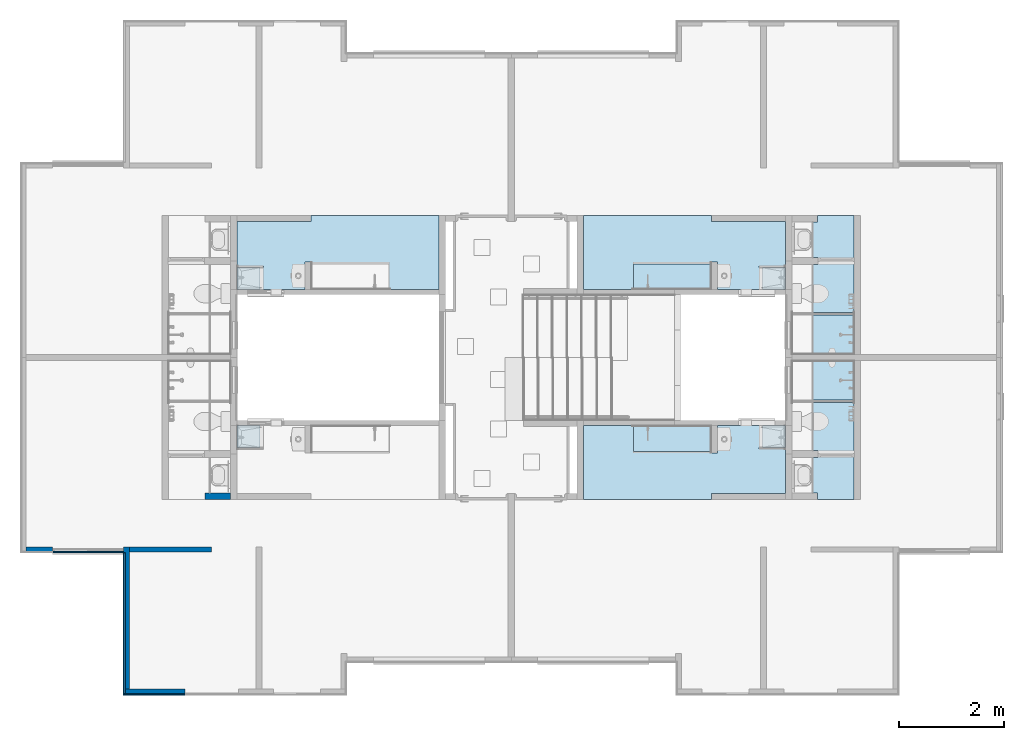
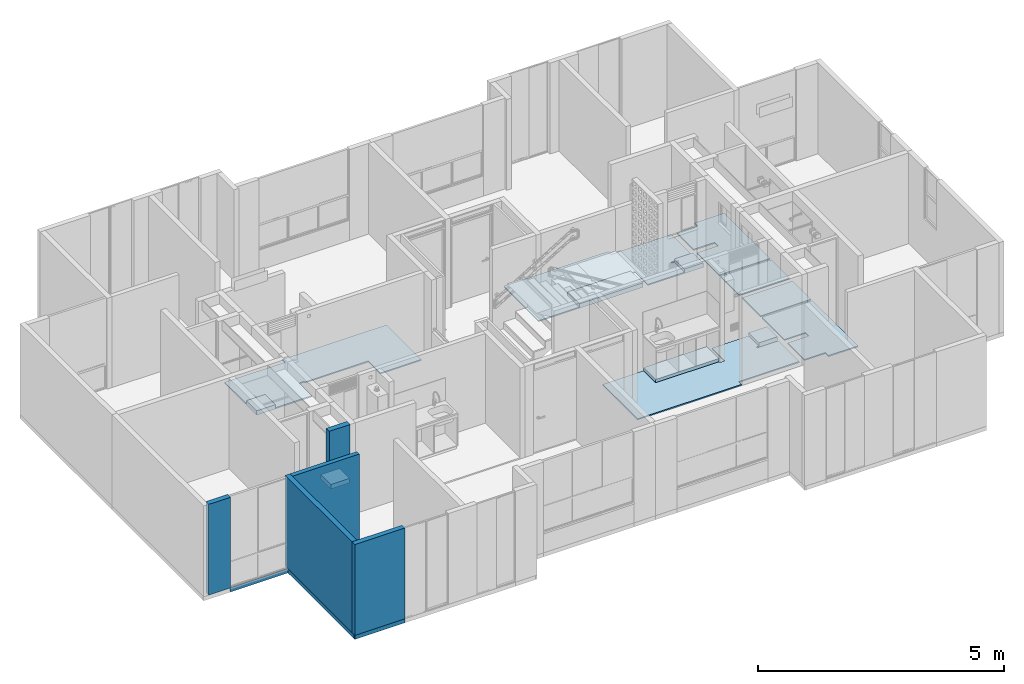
# One storey, part 3 of 48: 11 slabs, 8 walls.
"""IFC4 building model written with IfcOpenShell, lengths in metres."""

from ifc_helpers import new_model, entity, si_unit, converted_unit, derived_unit, direction, frame, origin, place, context, subcontext, project, spatial, indexed_curve, outline, extrude, material, constituent, constituent_set, type_object, element, save


model = new_model("IFC4")

# Units and contexts
model_context = context("Model", 3, precision=1e-05, world=origin(), true_north=direction((6.123031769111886e-17, 1.0)))
body_context = subcontext(model_context, "Body", "Model", "MODEL_VIEW")
ifc_project = project(units=[si_unit("LENGTHUNIT", "METRE"), si_unit("AREAUNIT", "SQUARE_METRE"), si_unit("VOLUMEUNIT", "CUBIC_METRE"), converted_unit("PLANEANGLEUNIT", "DEGREE", entity("IfcRatioMeasure", 0.017453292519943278), si_unit("PLANEANGLEUNIT", "RADIAN"), dimensions=[0, 0, 0, 0, 0, 0, 0]), si_unit("MASSUNIT", "GRAM", prefix="KILO"), derived_unit("MASSDENSITYUNIT", [(si_unit("MASSUNIT", "GRAM", prefix="KILO"), 1), (si_unit("LENGTHUNIT", "METRE"), -3)]), derived_unit("IONCONCENTRATIONUNIT", [(si_unit("MASSUNIT", "GRAM", prefix="KILO"), 1), (si_unit("LENGTHUNIT", "METRE"), -3)]), derived_unit("MOMENTOFINERTIAUNIT", [(si_unit("LENGTHUNIT", "METRE"), 4)]), si_unit("TIMEUNIT", "SECOND"), si_unit("FREQUENCYUNIT", "HERTZ"), si_unit("THERMODYNAMICTEMPERATUREUNIT", "DEGREE_CELSIUS"), derived_unit("THERMALTRANSMITTANCEUNIT", [(si_unit("MASSUNIT", "GRAM", prefix="KILO"), 1), (si_unit("THERMODYNAMICTEMPERATUREUNIT", "KELVIN"), -1), (si_unit("TIMEUNIT", "SECOND"), -3)]), derived_unit("THERMALCONDUCTANCEUNIT", [(si_unit("MASSUNIT", "GRAM", prefix="KILO"), 1), (si_unit("THERMODYNAMICTEMPERATUREUNIT", "KELVIN"), -1), (si_unit("TIMEUNIT", "SECOND"), -3), (si_unit("LENGTHUNIT", "METRE"), 1)]), derived_unit("VOLUMETRICFLOWRATEUNIT", [(si_unit("LENGTHUNIT", "METRE"), 3), (si_unit("TIMEUNIT", "SECOND"), -1)]), derived_unit("MASSFLOWRATEUNIT", [(si_unit("MASSUNIT", "GRAM", prefix="KILO"), 1), (si_unit("TIMEUNIT", "SECOND"), -1)]), derived_unit("ROTATIONALFREQUENCYUNIT", [(si_unit("TIMEUNIT", "SECOND"), -1)]), si_unit("ELECTRICCURRENTUNIT", "AMPERE"), si_unit("ELECTRICVOLTAGEUNIT", "VOLT"), si_unit("POWERUNIT", "WATT"), si_unit("FORCEUNIT", "NEWTON", prefix="KILO"), si_unit("ILLUMINANCEUNIT", "LUX"), si_unit("LUMINOUSFLUXUNIT", "LUMEN"), si_unit("LUMINOUSINTENSITYUNIT", "CANDELA"), derived_unit("USERDEFINED", [(si_unit("MASSUNIT", "GRAM", prefix="KILO"), -1), (si_unit("LENGTHUNIT", "METRE"), -2), (si_unit("TIMEUNIT", "SECOND"), 3), (si_unit("LUMINOUSFLUXUNIT", "LUMEN"), 1)]), derived_unit("USERDEFINED", [(si_unit("MASSUNIT", "GRAM", prefix="KILO"), 1), (si_unit("TIMEUNIT", "SECOND"), -3), (si_unit("LENGTHUNIT", "METRE"), 3), (si_unit("ELECTRICCURRENTUNIT", "AMPERE"), -2)]), derived_unit("SOUNDPOWERUNIT", [(si_unit("MASSUNIT", "GRAM", prefix="KILO"), 1), (si_unit("TIMEUNIT", "SECOND"), -3), (si_unit("LENGTHUNIT", "METRE"), 2)]), derived_unit("SOUNDPRESSUREUNIT", [(si_unit("MASSUNIT", "GRAM", prefix="KILO"), 1), (si_unit("LENGTHUNIT", "METRE"), -1), (si_unit("TIMEUNIT", "SECOND"), -2)]), derived_unit("LINEARVELOCITYUNIT", [(si_unit("LENGTHUNIT", "METRE"), 1), (si_unit("TIMEUNIT", "SECOND"), -1)]), si_unit("PRESSUREUNIT", "PASCAL"), derived_unit("USERDEFINED", [(si_unit("MASSUNIT", "GRAM", prefix="KILO"), 1), (si_unit("LENGTHUNIT", "METRE"), -2), (si_unit("TIMEUNIT", "SECOND"), -2)]), derived_unit("LINEARFORCEUNIT", [(si_unit("MASSUNIT", "GRAM", prefix="KILO"), 1), (si_unit("TIMEUNIT", "SECOND"), -2)]), derived_unit("PLANARFORCEUNIT", [(si_unit("MASSUNIT", "GRAM", prefix="KILO"), 1), (si_unit("LENGTHUNIT", "METRE"), -1), (si_unit("TIMEUNIT", "SECOND"), -2)]), derived_unit("SPECIFICHEATCAPACITYUNIT", [(si_unit("THERMODYNAMICTEMPERATUREUNIT", "KELVIN"), -1), (si_unit("LENGTHUNIT", "METRE"), 2), (si_unit("TIMEUNIT", "SECOND"), -2)]), derived_unit("HEATINGVALUEUNIT", [(si_unit("LENGTHUNIT", "METRE"), 2), (si_unit("TIMEUNIT", "SECOND"), -2)]), derived_unit("VAPORPERMEABILITYUNIT", [(si_unit("LENGTHUNIT", "METRE"), -1), (si_unit("TIMEUNIT", "SECOND"), 1)]), derived_unit("DYNAMICVISCOSITYUNIT", [(si_unit("MASSUNIT", "GRAM", prefix="KILO"), 1), (si_unit("TIMEUNIT", "SECOND"), -1), (si_unit("LENGTHUNIT", "METRE"), -1)]), derived_unit("THERMALEXPANSIONCOEFFICIENTUNIT", [(si_unit("THERMODYNAMICTEMPERATUREUNIT", "KELVIN"), -1)]), derived_unit("MODULUSOFELASTICITYUNIT", [(si_unit("MASSUNIT", "GRAM", prefix="KILO"), 1), (si_unit("LENGTHUNIT", "METRE"), -1), (si_unit("TIMEUNIT", "SECOND"), -2)]), derived_unit("ISOTHERMALMOISTURECAPACITYUNIT", [(si_unit("LENGTHUNIT", "METRE"), 3), (si_unit("MASSUNIT", "GRAM", prefix="KILO"), -1)]), derived_unit("MOISTUREDIFFUSIVITYUNIT", [(si_unit("TIMEUNIT", "SECOND"), -1), (si_unit("LENGTHUNIT", "METRE"), 2)])], contexts=[model_context])

# Site, building, storey
site_placement = place(None, origin())
site = spatial("IfcSite", under=ifc_project, at=site_placement, Name="Default", CompositionType="ELEMENT")
building_placement = place(site_placement, origin())
building = spatial("IfcBuilding", under=site, at=building_placement, CompositionType="ELEMENT")
storey_placement = place(building_placement, frame((0.0, 0.0, 9.40000000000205)))
storey = spatial("IfcBuildingStorey", under=building, at=storey_placement, Name="Nivel 5", CompositionType="ELEMENT", Elevation=9.40000000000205)

# Slabs
ifc_material_1 = material(Name="Ceramica 0.45m x 0.45m gris", Category="Materials")
ifc_constituent_1 = constituent(ifc_material_1, Name="Ceramica 0.45m x 0.45m gris", Category="Materials")
ifc_material_2 = material(Name="Mortero de pega", Category="Materials")
ifc_constituent_2 = constituent(ifc_material_2, Name="Mortero de pega", Category="Materials")
ifc_constituent_set_1 = constituent_set(constituents=[ifc_constituent_1, ifc_constituent_2], Name="Floor:C2030.20 - 0.45 x 0.45 - Enchape cerámico - Mortero de Pega + Cerámica gris")
slab_type_1 = type_object("IfcSlabType", Name="Floor:C2030.20 - 0.45 x 0.45 - Enchape cerámico - Mortero de Pega + Cerámica gris", PredefinedType="FLOOR", material=ifc_constituent_set_1)
slab_1_placement = place(storey_placement, origin())
element("IfcSlab", 1, at=slab_1_placement, inside=storey, type_object=slab_type_1, material=ifc_constituent_set_1, Name="Floor:C2030.20 - 0.45 x 0.45 - Enchape cerámico - Mortero de Pega + Cerámica gris", ObjectType="Floor:C2030.20 - 0.45 x 0.45 - Enchape cerámico - Mortero de Pega + Cerámica gris", PredefinedType="FLOOR", context=body_context, shape_type="SweptSolid", body=[
    extrude(outline(indexed_curve([(0.06375012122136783, -0.725999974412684), (1.478750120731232, -0.725999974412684), (1.4787501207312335, 0.12399999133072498), (0.9787496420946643, 0.12399999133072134), (0.9787496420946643, 0.15799999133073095), (1.0387496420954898, 0.15799999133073), (1.03874964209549, 0.5734999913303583), (0.17875012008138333, 0.5734999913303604), (0.1787501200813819, 0.053999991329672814), (0.06375012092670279, 0.05399999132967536), (0.06375012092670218, 0.08399999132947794), (-1.4212498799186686, 0.08399999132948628), (-1.4212498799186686, 0.5734999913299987), (-2.3812498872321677, 0.5734999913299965), (-2.38124988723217, -0.8409999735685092), (0.06375012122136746, -0.8409999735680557), (0.06375012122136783, -0.725999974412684)], self_intersect=False)), frame((5.566250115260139, -4.5510000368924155, 0.019999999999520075), z_axis=(0.0, 0.0, 1.0), x_axis=(-1.0, 0.0, 0.0)), (0.0, 0.0, 1.0), 0.009999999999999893),
    extrude(outline(indexed_curve([(-0.8409999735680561, 0.06375012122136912), (-0.840999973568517, -2.381249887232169), (0.5734999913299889, -2.3812498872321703), (0.5734999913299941, -1.4212498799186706), (0.08399999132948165, -1.4212498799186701), (0.08399999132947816, 0.0637501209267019), (0.05399999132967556, 0.06375012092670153), (0.0539999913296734, 0.17875012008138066), (0.5734999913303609, 0.1787501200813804), (0.5734999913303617, 1.0387496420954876), (0.1579999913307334, 1.0387496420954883), (0.15799999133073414, 0.9787496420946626), (0.12399999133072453, 0.9787496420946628), (0.1239999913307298, 1.4787501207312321), (-0.7259999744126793, 1.4787501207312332), (-0.7259999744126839, 0.06375012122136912), (-0.8409999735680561, 0.06375012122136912)], self_intersect=False)), frame((5.5662501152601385, -4.5510000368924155, 0.0), z_axis=(0.0, 0.0, -1.0), x_axis=(0.0, -1.0, 0.0)), (0.0, 0.0, -1.0), 0.019999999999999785),
])
slab_2_placement = place(storey_placement, origin())
element("IfcSlab", 2, at=slab_2_placement, inside=storey, type_object=slab_type_1, material=ifc_constituent_set_1, Name="Floor:C2030.20 - 0.45 x 0.45 - Enchape cerámico - Mortero de Pega + Cerámica gris", ObjectType="Floor:C2030.20 - 0.45 x 0.45 - Enchape cerámico - Mortero de Pega + Cerámica gris", PredefinedType="FLOOR", context=body_context, shape_type="SweptSolid", body=[
    extrude(outline(indexed_curve([(-0.5924994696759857, -0.3749999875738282), (0.5924994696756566, -0.3749999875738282), (0.5924994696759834, 0.3749999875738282), (-0.5924994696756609, 0.3749999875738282), (-0.5924994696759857, -0.3749999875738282)], self_intersect=False)), frame((15.274999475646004, -5.9900000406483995, 0.019999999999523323)), (0.0, 0.0, 1.0), 0.009999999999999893),
    extrude(outline(indexed_curve([(0.19500000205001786, -0.43399957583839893), (1.1099999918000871, -0.43399957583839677), (1.1099999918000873, 0.750999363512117), (-0.7449999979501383, 0.7509993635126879), (-0.7449999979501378, 0.05600042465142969), (-0.6199999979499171, 0.056000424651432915), (-0.6199999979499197, -0.43399957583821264), (0.06000000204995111, -0.43399957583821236), (0.06000000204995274, 0.06099936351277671), (0.19500000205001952, 0.060999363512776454), (0.19500000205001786, -0.43399957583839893)], self_intersect=False)), frame((15.116499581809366, -4.455000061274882, 0.019999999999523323), z_axis=(0.0, 0.0, 1.0), x_axis=(0.0, -1.0, 0.0)), (0.0, 0.0, 1.0), 0.009999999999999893),
    extrude(outline(indexed_curve([(-1.1099999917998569, -0.7509993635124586), (0.7449999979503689, -0.7509993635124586), (0.7449999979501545, -0.056000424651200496), (0.6199999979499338, -0.05600042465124), (0.6199999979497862, 0.43399957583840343), (-0.06000000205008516, 0.43399957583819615), (-0.06000000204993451, -0.06099936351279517), (-0.1950000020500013, -0.06099936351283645), (-0.19500000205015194, 0.4339995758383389), (-1.109999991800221, 0.43399957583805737), (-1.1099999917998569, -0.7509993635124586)], self_intersect=False)), frame((15.116499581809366, -4.455000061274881, 0.0), z_axis=(0.0, 0.0, 1.0), x_axis=(0.0, 1.0, 0.0)), (0.0, 0.0, 1.0), 0.019999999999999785),
    extrude(outline(indexed_curve([(-0.5924994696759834, -0.3749999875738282), (0.5924994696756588, -0.3749999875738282), (0.5924994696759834, 0.3749999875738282), (-0.5924994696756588, 0.3749999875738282), (-0.5924994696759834, -0.3749999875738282)], self_intersect=False)), frame((15.274999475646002, -5.9900000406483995, 0.0)), (0.0, 0.0, 1.0), 0.019999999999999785),
])
slab_3_placement = place(storey_placement, origin())
element("IfcSlab", 3, at=slab_3_placement, inside=storey, type_object=slab_type_1, material=ifc_constituent_set_1, Name="Floor:C2030.20 - 0.45 x 0.45 - Enchape cerámico - Mortero de Pega + Cerámica gris", ObjectType="Floor:C2030.20 - 0.45 x 0.45 - Enchape cerámico - Mortero de Pega + Cerámica gris", PredefinedType="FLOOR", context=body_context, shape_type="SweptSolid", body=[
    extrude(outline(indexed_curve([(-0.06375012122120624, -0.8409999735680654), (2.381249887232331, -0.8409999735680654), (2.381249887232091, 0.5734999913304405), (1.4212498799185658, 0.5734999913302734), (1.4212498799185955, 0.08399999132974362), (-0.06375012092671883, 0.08399999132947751), (-0.06375012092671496, 0.05399999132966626), (-0.17875012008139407, 0.05399999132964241), (-0.17875012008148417, 0.5734999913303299), (-1.0387496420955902, 0.5734999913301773), (-1.0387496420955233, 0.15799999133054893), (-0.9787496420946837, 0.15799999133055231), (-0.9787496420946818, 0.12399999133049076), (-1.4787501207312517, 0.12399999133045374), (-1.4787501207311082, -0.7259999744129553), (-0.06375012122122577, -0.7259999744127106), (-0.06375012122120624, -0.8409999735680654)], self_intersect=False)), frame((13.078749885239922, -4.551000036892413, 0.019999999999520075), z_axis=(0.0, 0.0, 1.0), x_axis=(-1.0, 0.0, 0.0)), (0.0, 0.0, 1.0), 0.009999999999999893),
    extrude(outline(indexed_curve([(-0.06375012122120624, -0.8409999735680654), (2.381249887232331, -0.8409999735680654), (2.381249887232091, 0.5734999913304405), (1.4212498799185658, 0.5734999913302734), (1.4212498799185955, 0.08399999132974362), (-0.06375012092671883, 0.08399999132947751), (-0.0637501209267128, 0.05399999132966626), (-0.17875012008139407, 0.05399999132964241), (-0.17875012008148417, 0.5734999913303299), (-1.0387496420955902, 0.5734999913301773), (-1.0387496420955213, 0.15799999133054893), (-0.9787496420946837, 0.15799999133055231), (-0.9787496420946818, 0.12399999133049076), (-1.4787501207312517, 0.12399999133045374), (-1.478750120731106, -0.7259999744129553), (-0.06375012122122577, -0.7259999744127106), (-0.06375012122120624, -0.8409999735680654)], self_intersect=False)), frame((13.078749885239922, -4.551000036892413, 0.0), z_axis=(0.0, 0.0, 1.0), x_axis=(-1.0, 0.0, 0.0)), (0.0, 0.0, 1.0), 0.019999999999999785),
])
slab_4_placement = place(storey_placement, origin())
element("IfcSlab", 4, at=slab_4_placement, inside=storey, type_object=slab_type_1, material=ifc_constituent_set_1, Name="Floor:C2030.20 - 0.45 x 0.45 - Enchape cerámico - Mortero de Pega + Cerámica gris", ObjectType="Floor:C2030.20 - 0.45 x 0.45 - Enchape cerámico - Mortero de Pega + Cerámica gris", PredefinedType="FLOOR", context=body_context, shape_type="SweptSolid", body=[
    extrude(outline(indexed_curve([(-0.5924994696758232, -0.3749999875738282), (0.5924994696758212, -0.3749999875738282), (0.5924994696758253, 0.3749999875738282), (-0.5924994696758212, 0.3749999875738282), (-0.5924994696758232, -0.3749999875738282)], self_intersect=False)), frame((15.274999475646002, -6.860000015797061, 0.019999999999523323)), (0.0, 0.0, 1.0), 0.009999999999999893),
    extrude(outline(indexed_curve([(-0.1950000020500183, -0.06099936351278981), (-0.19500000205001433, 0.4339995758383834), (-1.1099999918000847, 0.4339995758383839), (-1.1099999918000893, -0.75099936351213), (0.7449999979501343, -0.7509993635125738), (0.7449999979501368, -0.056000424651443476), (0.6199999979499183, -0.0560004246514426), (0.6199999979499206, 0.4339995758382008), (-0.06000000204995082, 0.4339995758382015), (-0.060000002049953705, -0.06099936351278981), (-0.1950000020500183, -0.06099936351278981)], self_intersect=False)), frame((15.116499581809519, -8.394999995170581, 0.019999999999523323), z_axis=(0.0, 0.0, -1.0), x_axis=(0.0, -1.0, 0.0)), (0.0, 0.0, -1.0), 0.009999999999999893),
    extrude(outline(indexed_curve([(-0.7509993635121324, -1.1099999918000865), (0.43399957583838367, -1.1099999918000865), (0.4339995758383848, -0.1950000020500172), (-0.06099936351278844, -0.19500000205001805), (-0.060999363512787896, -0.06000000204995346), (0.43399957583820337, -0.06000000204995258), (0.43399957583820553, 0.6199999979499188), (-0.05600042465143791, 0.6199999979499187), (-0.056000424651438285, 0.744999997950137), (-0.7509993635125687, 0.7449999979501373), (-0.7509993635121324, -1.1099999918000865)], self_intersect=False)), frame((15.11649958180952, -8.394999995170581, 0.0), z_axis=(0.0, 0.0, 1.0), x_axis=(-1.0, 0.0, 0.0)), (0.0, 0.0, 1.0), 0.019999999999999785),
    extrude(outline(indexed_curve([(-0.3749999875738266, -0.5924994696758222), (0.3749999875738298, -0.5924994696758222), (0.3749999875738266, 0.5924994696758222), (-0.3749999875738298, 0.5924994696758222), (-0.3749999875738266, -0.5924994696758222)], self_intersect=False)), frame((15.274999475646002, -6.860000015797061, 0.0), z_axis=(0.0, 0.0, 1.0), x_axis=(0.0, -1.0, 0.0)), (0.0, 0.0, 1.0), 0.019999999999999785),
])
slab_5_placement = place(storey_placement, origin())
element("IfcSlab", 5, at=slab_5_placement, inside=storey, type_object=slab_type_1, material=ifc_constituent_set_1, Name="Floor:C2030.20 - 0.45 x 0.45 - Enchape cerámico - Mortero de Pega + Cerámica gris", ObjectType="Floor:C2030.20 - 0.45 x 0.45 - Enchape cerámico - Mortero de Pega + Cerámica gris", PredefinedType="FLOOR", context=body_context, shape_type="SweptSolid", body=[
    extrude(outline(indexed_curve([(0.06375012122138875, -0.725999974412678), (1.478750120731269, -0.725999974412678), (1.478750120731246, 0.12399999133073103), (0.9787496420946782, 0.12399999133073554), (0.9787496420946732, 0.15799999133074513), (1.0387496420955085, 0.15799999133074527), (1.0387496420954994, 0.5734999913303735), (0.1787501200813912, 0.5734999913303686), (0.17875012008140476, 0.053999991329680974), (0.06375012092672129, 0.0539999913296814), (0.06375012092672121, 0.083999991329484), (-1.4212498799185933, 0.08399999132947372), (-1.4212498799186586, 0.5734999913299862), (-2.3812498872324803, 0.5734999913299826), (-2.3812498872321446, -0.8409999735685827), (0.0637501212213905, -0.8409999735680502), (0.06375012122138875, -0.725999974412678)], self_intersect=False)), frame((13.078749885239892, -8.299000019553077, 0.019999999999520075)), (0.0, 0.0, 1.0), 0.009999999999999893),
    extrude(outline(indexed_curve([(-0.8409999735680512, 0.06375012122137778), (-0.8409999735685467, -2.381249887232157), (0.5734999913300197, -2.3812498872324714), (0.5734999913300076, -1.42124987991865), (0.08399999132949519, -1.421249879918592), (0.08399999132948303, 0.06375012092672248), (0.05399999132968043, 0.06375012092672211), (0.05399999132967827, 0.17875012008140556), (0.5734999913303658, 0.17875012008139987), (0.5734999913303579, 1.038749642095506), (0.1579999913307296, 1.038749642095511), (0.15799999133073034, 0.9787496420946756), (0.12399999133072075, 0.9787496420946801), (0.12399999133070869, 1.478750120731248), (-0.7259999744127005, 1.478750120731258), (-0.725999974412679, 0.06375012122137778), (-0.8409999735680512, 0.06375012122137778)], self_intersect=False)), frame((13.078749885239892, -8.299000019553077, 0.0), z_axis=(0.0, 0.0, -1.0), x_axis=(0.0, 1.0, 0.0)), (0.0, 0.0, -1.0), 0.019999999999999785),
])
ifc_material_3 = material(Name="Concreto (Aire)", Category="Materials")
slab_type_2 = type_object("IfcSlabType", Name="Floor:B1010 - 0.10m - Poyo - Concreto", PredefinedType="FLOOR", material=ifc_material_3)
slab_6_placement = place(storey_placement, origin())
element("IfcSlab", 6, at=slab_6_placement, inside=storey, type_object=slab_type_2, material=ifc_material_3, Name="Floor:B1010 - 0.10m - Poyo - Concreto", ObjectType="Floor:B1010 - 0.10m - Poyo - Concreto", PredefinedType="FLOOR", context=body_context, shape_type="SweptSolid", body=[
    extrude(outline(indexed_curve([(-0.24475000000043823, -0.7425000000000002), (0.2447500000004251, -0.7425000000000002), (0.24475000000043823, 0.7425000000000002), (-0.2447500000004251, 0.7425000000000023), (-0.24475000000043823, -0.7425000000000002)], self_intersect=False)), frame((12.400000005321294, -4.87975002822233, 0.10999999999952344), z_axis=(0.0, 0.0, -1.0), x_axis=(0.0, 1.0, 0.0)), (0.0, 0.0, 1.0), 0.1099999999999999),
])
slab_7_placement = place(storey_placement, origin())
element("IfcSlab", 7, at=slab_7_placement, inside=storey, type_object=slab_type_2, material=ifc_material_3, Name="Floor:B1010 - 0.10m - Poyo - Concreto", ObjectType="Floor:B1010 - 0.10m - Poyo - Concreto", PredefinedType="FLOOR", context=body_context, shape_type="SweptSolid", body=[
    extrude(outline(indexed_curve([(-0.2447500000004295, -0.7425000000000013), (0.2447500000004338, -0.7425000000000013), (0.24475000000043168, 0.7425000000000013), (-0.2447500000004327, 0.742499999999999), (-0.2447500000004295, -0.7425000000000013)], self_intersect=False)), frame((12.400000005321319, -7.9702500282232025, 0.10999999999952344), z_axis=(0.0, 0.0, -1.0), x_axis=(0.0, 1.0, 0.0)), (0.0, 0.0, 1.0), 0.1099999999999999),
])
ifc_constituent_3 = constituent(ifc_material_1, Name="Ceramica 0.45m x 0.45m gris", Category="Materials")
ifc_constituent_4 = constituent(ifc_material_3, Name="Concreto (Aire)", Category="Materials")
ifc_constituent_set_2 = constituent_set(constituents=[ifc_constituent_3, ifc_constituent_4], Name="Floor:B1010 - 0.10m - Poyo - Concreto+ cerámica")
slab_type_3 = type_object("IfcSlabType", Name="Floor:B1010 - 0.10m - Poyo - Concreto+ cerámica", PredefinedType="FLOOR", material=ifc_constituent_set_2)
slab_8_placement = place(storey_placement, origin())
element("IfcSlab", 8, at=slab_8_placement, inside=storey, type_object=slab_type_3, material=ifc_constituent_set_2, Name="Floor:B1010 - 0.10m - Poyo - Concreto+ cerámica", ObjectType="Floor:B1010 - 0.10m - Poyo - Concreto+ cerámica", PredefinedType="FLOOR", context=body_context, shape_type="SweptSolid", body=[
    extrude(outline(indexed_curve([(-0.20774999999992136, -0.220000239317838), (0.20774999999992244, -0.220000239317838), (0.20774999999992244, 0.22000023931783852), (-0.20774999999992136, 0.220000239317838), (-0.20774999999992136, -0.220000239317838)], self_intersect=False)), frame((4.307500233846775, -4.916750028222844, 0.09999999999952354), z_axis=(0.0, 0.0, 1.0), x_axis=(0.0, -1.0, 0.0)), (0.0, 0.0, 1.0), 0.009999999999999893),
    extrude(outline(indexed_curve([(-0.220000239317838, -0.20774999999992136), (0.22000023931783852, -0.20774999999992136), (0.22000023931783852, 0.20774999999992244), (-0.220000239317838, 0.20774999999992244), (-0.220000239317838, -0.20774999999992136)], self_intersect=False)), frame((4.307500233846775, -4.916750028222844, 0.0), z_axis=(0.0, 0.0, 1.0), x_axis=(-1.0, 0.0, 0.0)), (0.0, 0.0, 1.0), 0.1),
])
slab_9_placement = place(storey_placement, origin())
element("IfcSlab", 9, at=slab_9_placement, inside=storey, type_object=slab_type_3, material=ifc_constituent_set_2, Name="Floor:B1010 - 0.10m - Poyo - Concreto+ cerámica", ObjectType="Floor:B1010 - 0.10m - Poyo - Concreto+ cerámica", PredefinedType="FLOOR", context=body_context, shape_type="SweptSolid", body=[
    extrude(outline(indexed_curve([(-0.2077499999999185, -0.220000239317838), (0.20774999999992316, -0.220000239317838), (0.20774999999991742, 0.22000023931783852), (-0.20774999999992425, 0.22000023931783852), (-0.2077499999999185, -0.220000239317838)], self_intersect=False)), frame((4.307500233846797, -7.933250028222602, 0.09999999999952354), z_axis=(0.0, 0.0, 1.0), x_axis=(0.0, 1.0, 0.0)), (0.0, 0.0, 1.0), 0.009999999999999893),
    extrude(outline(indexed_curve([(-0.2077499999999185, -0.220000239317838), (0.20774999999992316, -0.220000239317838), (0.20774999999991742, 0.22000023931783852), (-0.20774999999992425, 0.22000023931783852), (-0.2077499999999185, -0.220000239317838)], self_intersect=False)), frame((4.307500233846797, -7.933250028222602, 0.0), z_axis=(0.0, 0.0, 1.0), x_axis=(0.0, 1.0, 0.0)), (0.0, 0.0, 1.0), 0.1),
])
slab_10_placement = place(storey_placement, origin())
element("IfcSlab", 10, at=slab_10_placement, inside=storey, type_object=slab_type_3, material=ifc_constituent_set_2, Name="Floor:B1010 - 0.10m - Poyo - Concreto+ cerámica", ObjectType="Floor:B1010 - 0.10m - Poyo - Concreto+ cerámica", PredefinedType="FLOOR", context=body_context, shape_type="SweptSolid", body=[
    extrude(outline(indexed_curve([(-0.20774999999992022, -0.220000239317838), (0.20774999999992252, -0.220000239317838), (0.20774999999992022, 0.220000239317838), (-0.20774999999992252, 0.220000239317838), (-0.20774999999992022, -0.220000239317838)], self_intersect=False)), frame((14.33749976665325, -4.916750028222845, 0.09999999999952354), z_axis=(0.0, 0.0, 1.0), x_axis=(0.0, -1.0, 0.0)), (0.0, 0.0, 1.0), 0.009999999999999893),
    extrude(outline(indexed_curve([(-0.20774999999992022, -0.220000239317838), (0.20774999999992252, -0.220000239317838), (0.20774999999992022, 0.220000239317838), (-0.20774999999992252, 0.220000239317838), (-0.20774999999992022, -0.220000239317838)], self_intersect=False)), frame((14.33749976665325, -4.916750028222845, 0.0), z_axis=(0.0, 0.0, 1.0), x_axis=(0.0, -1.0, 0.0)), (0.0, 0.0, 1.0), 0.1),
])
slab_11_placement = place(storey_placement, origin())
element("IfcSlab", 11, at=slab_11_placement, inside=storey, type_object=slab_type_3, material=ifc_constituent_set_2, Name="Floor:B1010 - 0.10m - Poyo - Concreto+ cerámica", ObjectType="Floor:B1010 - 0.10m - Poyo - Concreto+ cerámica", PredefinedType="FLOOR", context=body_context, shape_type="SweptSolid", body=[
    extrude(outline(indexed_curve([(-0.2077499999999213, -0.22000023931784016), (0.20774999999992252, -0.22000023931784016), (0.20774999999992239, 0.22000023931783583), (-0.20774999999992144, 0.22000023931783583), (-0.2077499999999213, -0.22000023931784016)], self_intersect=False)), frame((14.337499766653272, -7.9332500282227, 0.09999999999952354), z_axis=(0.0, 0.0, 1.0), x_axis=(0.0, 1.0, 0.0)), (0.0, 0.0, 1.0), 0.009999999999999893),
    extrude(outline(indexed_curve([(-0.22000023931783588, -0.20774999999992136), (0.22000023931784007, -0.20774999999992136), (0.2200002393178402, 0.20774999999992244), (-0.22000023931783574, 0.20774999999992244), (-0.22000023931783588, -0.20774999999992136)], self_intersect=False)), frame((14.337499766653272, -7.9332500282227, 0.0)), (0.0, 0.0, 1.0), 0.1),
])

# Walls
ifc_material_4 = material(Name="Ladrillo claro (Aire)", Category="Materials")
wall_type_1 = type_object("IfcWallType", Name="Basic Wall:B2010 - 0.115m - Muro exterior en mampostería - Ladrillo", PredefinedType="STANDARD")
wall_1_placement = place(storey_placement, frame((1.9749999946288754, -10.04000002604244, 0.0), z_axis=(0.0, 0.0, 1.0), x_axis=(0.0, -1.0, 0.0)))
element("IfcWall", 12, at=wall_1_placement, inside=storey, type_object=wall_type_1, material=ifc_material_4, Name="Basic Wall:B2010 - 0.115m - Muro exterior en mampostería - Ladrillo", ObjectType="Basic Wall:B2010 - 0.115m - Muro exterior en mampostería - Ladrillo", PredefinedType="NOTDEFINED", context=body_context, shape_type="SweptSolid", body=[
    extrude(outline(indexed_curve([(2.7150000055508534, 0.057499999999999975), (2.799198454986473e-16, 0.057499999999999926), (-2.799198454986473e-16, -0.057499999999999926), (2.715000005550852, -0.05749999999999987), (2.7150000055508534, 0.057499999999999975)], self_intersect=False)), origin(), (0.0, 0.0, 1.0), 2.25000000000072),
])
ifc_material_5 = material(Name="LADRILLO CLARO", Category="Materials")
wall_type_2 = type_object("IfcWallType", Name="Basic Wall:B2010 - 0.115m - ME mampostería no estructural - Ladrillo", PredefinedType="STANDARD")
wall_2_placement = place(storey_placement, frame((0.057499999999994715, -10.097500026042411, 0.0)))
element("IfcWall", 13, at=wall_2_placement, inside=storey, type_object=wall_type_2, material=ifc_material_5, Name="Basic Wall:B2010 - 0.115m - ME mampostería no estructural - Ladrillo", ObjectType="Basic Wall:B2010 - 0.115m - ME mampostería no estructural - Ladrillo", PredefinedType="NOTDEFINED", context=body_context, shape_type="SweptSolid", body=[
    extrude(outline(indexed_curve([(0.5099999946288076, 0.057499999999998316), (-1.1590771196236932e-18, 0.057499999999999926), (1.1590771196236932e-18, -0.057499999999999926), (0.5099999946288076, -0.05750000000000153), (0.5099999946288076, 0.057499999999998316)], self_intersect=False)), origin(), (0.0, 0.0, 1.0), 2.250000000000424),
])
wall_3_placement = place(storey_placement, frame((3.091699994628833, -12.812500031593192, 0.0), z_axis=(0.0, 0.0, 1.0), x_axis=(-1.0, 0.0, 0.0)))
element("IfcWall", 14, at=wall_3_placement, inside=storey, type_object=wall_type_2, material=ifc_material_5, Name="Basic Wall:B2010 - 0.115m - ME mampostería no estructural - Ladrillo", ObjectType="Basic Wall:B2010 - 0.115m - ME mampostería no estructural - Ladrillo", PredefinedType="NOTDEFINED", context=body_context, shape_type="SweptSolid", body=[
    extrude(outline(indexed_curve([(1.174199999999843, 0.05749999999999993), (-3.1869443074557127e-16, 0.057499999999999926), (-2.227391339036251e-16, -0.057499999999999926), (1.174199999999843, -0.05749999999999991), (1.174199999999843, 0.05749999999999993)], self_intersect=False)), origin(), (0.0, 0.0, 1.0), 2.2500000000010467),
])
wall_type_3 = type_object("IfcWallType", Name="Basic Wall:B2010 - 0.10m - Muro interior en concreto", PredefinedType="STANDARD")
wall_4_placement = place(storey_placement, frame((2.032499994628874, -10.090000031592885, 0.0)))
element("IfcWall", 15, at=wall_4_placement, inside=storey, type_object=wall_type_3, material=ifc_material_3, Name="Basic Wall:B2010 - 0.10m - Muro interior en concreto", ObjectType="Basic Wall:B2010 - 0.10m - Muro interior en concreto", PredefinedType="NOTDEFINED", context=body_context, shape_type="SweptSolid", body=[
    extrude(outline(indexed_curve([(1.5699999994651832, 0.050000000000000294), (-5.230813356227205e-17, 0.04999999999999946), (5.230813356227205e-17, -0.04999999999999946), (1.5699999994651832, -0.049999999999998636), (1.5699999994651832, 0.050000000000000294)], self_intersect=False)), origin(), (0.0, 0.0, 1.0), 2.2499999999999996),
])
ifc_material_6 = material(Name="Pañete", Category="Materials")
ifc_constituent_5 = constituent(ifc_material_6, Name="Pañete", Category="Materials")
ifc_constituent_6 = constituent(ifc_material_4, Name="Ladrillo claro (Aire)", Category="Materials")
ifc_constituent_set_3 = constituent_set(constituents=[ifc_constituent_5, ifc_constituent_6], Name="Basic Wall:B2010 - 0.115m - Muro interior en mampostería - Ladrillo + Pañete")
wall_type_4 = type_object("IfcWallType", Name="Basic Wall:B2010 - 0.115m - Muro interior en mampostería - Ladrillo + Pañete", PredefinedType="STANDARD", material=ifc_constituent_set_3)
wall_5_placement = place(storey_placement, frame((3.4724999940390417, -9.077499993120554, 0.0)))
element("IfcWall", 16, at=wall_5_placement, inside=storey, type_object=wall_type_4, material=ifc_constituent_set_3, Name="Basic Wall:B2010 - 0.115m - Muro interior en mampostería - Ladrillo + Pañete", ObjectType="Basic Wall:B2010 - 0.115m - Muro interior en mampostería - Ladrillo + Pañete", PredefinedType="NOTDEFINED", context=body_context, shape_type="SweptSolid", body=[
    extrude(outline(indexed_curve([(-0.004999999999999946, -0.24500000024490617), (0.004999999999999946, -0.24500000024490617), (0.005000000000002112, 0.24500000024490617), (-0.004999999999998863, 0.24500000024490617), (-0.004999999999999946, -0.24500000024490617)], self_intersect=False)), frame((0.24500000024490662, 0.057499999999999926, 0.0), z_axis=(0.0, 0.0, 1.0), x_axis=(0.0, -1.0, 0.0)), (0.0, 0.0, 1.0), 2.2500000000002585),
    extrude(outline(indexed_curve([(-0.057499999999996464, -0.2450000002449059), (0.0575000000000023, -0.2450000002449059), (0.057499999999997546, 0.24500000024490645), (-0.0575000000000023, 0.24500000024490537), (-0.057499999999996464, -0.2450000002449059)], self_intersect=False)), frame((0.24500000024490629, -0.005000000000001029, 0.0), z_axis=(0.0, 0.0, 1.0), x_axis=(0.0, 1.0, 0.0)), (0.0, 0.0, 1.0), 2.2500000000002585),
])
wall_type_5 = type_object("IfcWallType", Name="Basic Wall:B2010 - 0.03m - ME enchape  no estructural - Ladrillo", PredefinedType="STANDARD")
wall_6_placement = place(storey_placement, frame((1.9324999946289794, -12.84000003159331, -0.10000000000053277), z_axis=(0.0, 0.0, 1.0), x_axis=(0.0, 1.0, 0.0)))
element("IfcWall", 17, at=wall_6_placement, inside=storey, type_object=wall_type_5, material=ifc_material_5, Name="Basic Wall:B2010 - 0.03m - ME enchape  no estructural - Ladrillo", ObjectType="Basic Wall:B2010 - 0.03m - ME enchape  no estructural - Ladrillo", PredefinedType="NOTDEFINED", context=body_context, shape_type="SweptSolid", body=[
    extrude(outline(indexed_curve([(2.6836602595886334, 0.015000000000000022), (2.4689444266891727e-17, 0.015000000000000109), (-2.4689444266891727e-17, -0.015000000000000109), (2.6836602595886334, -0.015000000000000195), (2.6836602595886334, 0.015000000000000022)], self_intersect=False)), origin(), (0.0, 0.0, 1.0), 0.09999999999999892),
])
wall_7_placement = place(storey_placement, frame((3.0924999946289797, -12.855000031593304, -0.10000000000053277), z_axis=(0.0, 0.0, 1.0), x_axis=(-1.0, 0.0, 0.0)))
element("IfcWall", 18, at=wall_7_placement, inside=storey, type_object=wall_type_5, material=ifc_material_5, Name="Basic Wall:B2010 - 0.03m - ME enchape  no estructural - Ladrillo", ObjectType="Basic Wall:B2010 - 0.03m - ME enchape  no estructural - Ladrillo", PredefinedType="NOTDEFINED", context=body_context, shape_type="SweptSolid", body=[
    extrude(outline(indexed_curve([(1.1750000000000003, 0.015000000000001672), (4.570130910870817e-17, 0.015000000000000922), (-4.570130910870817e-17, -0.015000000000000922), (1.1750000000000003, -0.015000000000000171), (1.1750000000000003, 0.015000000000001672)], self_intersect=False)), origin(), (0.0, 0.0, 1.0), 0.09999999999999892),
])
wall_8_placement = place(storey_placement, frame((0.5674999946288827, -10.140000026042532, -0.10000000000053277)))
element("IfcWall", 19, at=wall_8_placement, inside=storey, type_object=wall_type_5, material=ifc_material_5, Name="Basic Wall:B2010 - 0.03m - ME enchape  no estructural - Ladrillo", ObjectType="Basic Wall:B2010 - 0.03m - ME enchape  no estructural - Ladrillo", PredefinedType="NOTDEFINED", context=body_context, shape_type="SweptSolid", body=[
    extrude(outline(indexed_curve([(1.3500000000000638, 0.015000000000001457), (-3.150138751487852e-17, 0.015000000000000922), (3.150138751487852e-17, -0.015000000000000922), (1.3500000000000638, -0.015000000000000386), (1.3500000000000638, 0.015000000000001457)], self_intersect=False)), origin(), (0.0, 0.0, 1.0), 0.09999999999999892),
])

save(model, "model.ifc")
